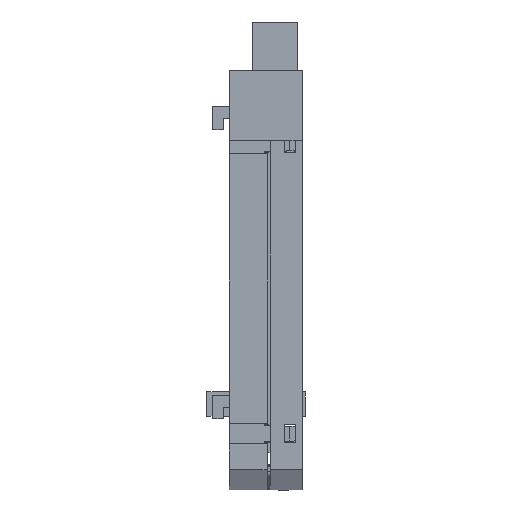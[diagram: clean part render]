
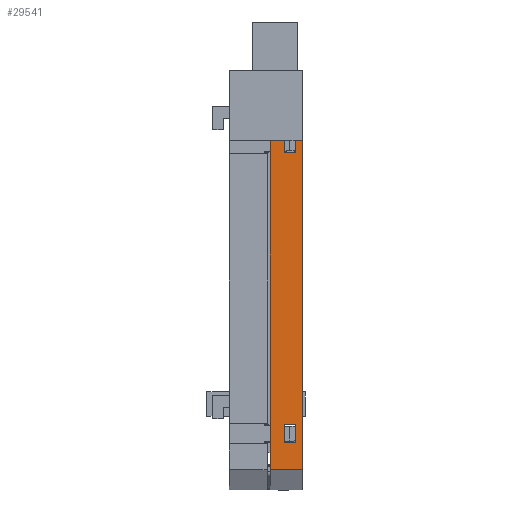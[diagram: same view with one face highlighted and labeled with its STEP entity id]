
A CAD part, front view. The second image highlights one B-rep face of the part: STEP entity #29541.
In plain terms, the highlighted planar face has unit normal (0, -1, 0).
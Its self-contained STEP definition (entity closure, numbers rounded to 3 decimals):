
#578 = EDGE_CURVE ( 'NONE', #30953, #20913, #30628, .T. ) ;
#805 = DIRECTION ( 'NONE',  ( 0., 0., 1. ) ) ;
#878 = ORIENTED_EDGE ( 'NONE', *, *, #22869, .T. ) ;
#997 = EDGE_CURVE ( 'NONE', #19001, #9235, #23706, .T. ) ;
#1550 = VERTEX_POINT ( 'NONE', #37493 ) ;
#1682 = CARTESIAN_POINT ( 'NONE',  ( 2.4, 0., -10.945 ) ) ;
#2820 = EDGE_CURVE ( 'NONE', #18022, #4559, #33786, .T. ) ;
#2954 = DIRECTION ( 'NONE',  ( 0., 0., -1. ) ) ;
#3087 = CARTESIAN_POINT ( 'NONE',  ( 0., 0., -65.25 ) ) ;
#3187 = CARTESIAN_POINT ( 'NONE',  ( 2.4, 0., -60.645 ) ) ;
#3425 = CARTESIAN_POINT ( 'NONE',  ( 2.4, 0., -60.645 ) ) ;
#3611 = DIRECTION ( 'NONE',  ( 0., 0., 1. ) ) ;
#4122 = FACE_BOUND ( 'NONE', #21312, .T. ) ;
#4152 = LINE ( 'NONE', #11160, #25774 ) ;
#4559 = VERTEX_POINT ( 'NONE', #17120 ) ;
#4831 = DIRECTION ( 'NONE',  ( -1., 0., 0. ) ) ;
#5074 = CARTESIAN_POINT ( 'NONE',  ( 5.5, 0., 0. ) ) ;
#5708 = CARTESIAN_POINT ( 'NONE',  ( 2.4, 0., -10.945 ) ) ;
#5855 = LINE ( 'NONE', #12832, #21508 ) ;
#6382 = LINE ( 'NONE', #14024, #22948 ) ;
#7833 = ORIENTED_EDGE ( 'NONE', *, *, #578, .F. ) ;
#8094 = AXIS2_PLACEMENT_3D ( 'NONE', #36084, #18408, #805 ) ;
#8108 = VECTOR ( 'NONE', #4831, 1000. ) ;
#8557 = VECTOR ( 'NONE', #31524, 1000. ) ;
#8659 = DIRECTION ( 'NONE',  ( 0., 0., 1. ) ) ;
#8926 = LINE ( 'NONE', #33074, #15831 ) ;
#9235 = VERTEX_POINT ( 'NONE', #32814 ) ;
#9621 = EDGE_CURVE ( 'NONE', #11173, #19001, #4152, .T. ) ;
#10289 = VECTOR ( 'NONE', #34561, 1000. ) ;
#10526 = ORIENTED_EDGE ( 'NONE', *, *, #9621, .T. ) ;
#10859 = CARTESIAN_POINT ( 'NONE',  ( 4.4, 0., -10.945 ) ) ;
#11160 = CARTESIAN_POINT ( 'NONE',  ( 2.4, 0., -57.545 ) ) ;
#11173 = VERTEX_POINT ( 'NONE', #18484 ) ;
#11356 = CARTESIAN_POINT ( 'NONE',  ( 5.5, 0., -65.25 ) ) ;
#11670 = CARTESIAN_POINT ( 'NONE',  ( 4.4, 0., -60.645 ) ) ;
#11745 = VECTOR ( 'NONE', #8659, 1000. ) ;
#12630 = CARTESIAN_POINT ( 'NONE',  ( 0., 0., 0. ) ) ;
#12672 = DIRECTION ( 'NONE',  ( -1., 0., 0. ) ) ;
#12832 = CARTESIAN_POINT ( 'NONE',  ( 2.4, 0., -7.845 ) ) ;
#14024 = CARTESIAN_POINT ( 'NONE',  ( 2.4, 0., -10.945 ) ) ;
#14122 = DIRECTION ( 'NONE',  ( 1., 0., 0. ) ) ;
#14889 = EDGE_CURVE ( 'NONE', #24997, #20390, #32039, .T. ) ;
#15149 = ORIENTED_EDGE ( 'NONE', *, *, #997, .T. ) ;
#15248 = EDGE_CURVE ( 'NONE', #35428, #1550, #36198, .T. ) ;
#15799 = DIRECTION ( 'NONE',  ( 1., 0., 0. ) ) ;
#15831 = VECTOR ( 'NONE', #3611, 1000. ) ;
#15883 = VECTOR ( 'NONE', #2954, 1000. ) ;
#17120 = CARTESIAN_POINT ( 'NONE',  ( 4.4, 0., -10.945 ) ) ;
#17472 = ORIENTED_EDGE ( 'NONE', *, *, #31771, .F. ) ;
#18022 = VERTEX_POINT ( 'NONE', #34598 ) ;
#18304 = EDGE_CURVE ( 'NONE', #9235, #28898, #19810, .T. ) ;
#18408 = DIRECTION ( 'NONE',  ( 0., 1., 0. ) ) ;
#18484 = CARTESIAN_POINT ( 'NONE',  ( 2.4, 0., -57.545 ) ) ;
#18789 = CARTESIAN_POINT ( 'NONE',  ( 4.4, 0., -57.545 ) ) ;
#19001 = VERTEX_POINT ( 'NONE', #18789 ) ;
#19146 = EDGE_CURVE ( 'NONE', #4559, #35428, #6382, .T. ) ;
#19776 = FACE_BOUND ( 'NONE', #25915, .T. ) ;
#19810 = LINE ( 'NONE', #3425, #27622 ) ;
#20390 = VERTEX_POINT ( 'NONE', #12630 ) ;
#20913 = VERTEX_POINT ( 'NONE', #3087 ) ;
#21043 = DIRECTION ( 'NONE',  ( -1., 0., 0. ) ) ;
#21312 = EDGE_LOOP ( 'NONE', ( #31601, #23349, #23385, #37666 ) ) ;
#21508 = VECTOR ( 'NONE', #15799, 1000. ) ;
#22679 = EDGE_LOOP ( 'NONE', ( #33590, #7833, #17472, #29906 ) ) ;
#22869 = EDGE_CURVE ( 'NONE', #28898, #11173, #8926, .T. ) ;
#22948 = VECTOR ( 'NONE', #31639, 1000. ) ;
#23349 = ORIENTED_EDGE ( 'NONE', *, *, #25207, .T. ) ;
#23385 = ORIENTED_EDGE ( 'NONE', *, *, #2820, .T. ) ;
#23706 = LINE ( 'NONE', #11670, #15883 ) ;
#23927 = VECTOR ( 'NONE', #31023, 1000. ) ;
#24997 = VERTEX_POINT ( 'NONE', #28567 ) ;
#25207 = EDGE_CURVE ( 'NONE', #1550, #18022, #5855, .T. ) ;
#25774 = VECTOR ( 'NONE', #14122, 1000. ) ;
#25915 = EDGE_LOOP ( 'NONE', ( #33550, #878, #10526, #15149 ) ) ;
#27590 = FACE_OUTER_BOUND ( 'NONE', #22679, .T. ) ;
#27622 = VECTOR ( 'NONE', #21043, 1000. ) ;
#28085 = CARTESIAN_POINT ( 'NONE',  ( 0., 0., 0. ) ) ;
#28132 = EDGE_CURVE ( 'NONE', #20390, #20913, #31711, .T. ) ;
#28360 = CARTESIAN_POINT ( 'NONE',  ( 5.5, 0., -65.25 ) ) ;
#28567 = CARTESIAN_POINT ( 'NONE',  ( 5.5, 0., 0. ) ) ;
#28898 = VERTEX_POINT ( 'NONE', #3187 ) ;
#29541 = ADVANCED_FACE ( 'NONE', ( #4122, #19776, #27590 ), #30121, .F. ) ;
#29906 = ORIENTED_EDGE ( 'NONE', *, *, #14889, .T. ) ;
#30121 = PLANE ( 'NONE',  #8094 ) ;
#30290 = CARTESIAN_POINT ( 'NONE',  ( 5.5, 0., 0. ) ) ;
#30628 = LINE ( 'NONE', #28360, #8108 ) ;
#30953 = VERTEX_POINT ( 'NONE', #11356 ) ;
#31023 = DIRECTION ( 'NONE',  ( 0., 0., -1. ) ) ;
#31524 = DIRECTION ( 'NONE',  ( 0., 0., -1. ) ) ;
#31601 = ORIENTED_EDGE ( 'NONE', *, *, #15248, .T. ) ;
#31639 = DIRECTION ( 'NONE',  ( -1., 0., 0. ) ) ;
#31711 = LINE ( 'NONE', #28085, #23927 ) ;
#31771 = EDGE_CURVE ( 'NONE', #24997, #30953, #31998, .T. ) ;
#31998 = LINE ( 'NONE', #5074, #8557 ) ;
#32039 = LINE ( 'NONE', #30290, #38032 ) ;
#32814 = CARTESIAN_POINT ( 'NONE',  ( 4.4, 0., -60.645 ) ) ;
#33074 = CARTESIAN_POINT ( 'NONE',  ( 2.4, 0., -60.645 ) ) ;
#33550 = ORIENTED_EDGE ( 'NONE', *, *, #18304, .T. ) ;
#33590 = ORIENTED_EDGE ( 'NONE', *, *, #28132, .T. ) ;
#33786 = LINE ( 'NONE', #10859, #10289 ) ;
#34561 = DIRECTION ( 'NONE',  ( 0., 0., -1. ) ) ;
#34598 = CARTESIAN_POINT ( 'NONE',  ( 4.4, 0., -7.845 ) ) ;
#35428 = VERTEX_POINT ( 'NONE', #1682 ) ;
#36084 = CARTESIAN_POINT ( 'NONE',  ( 5.5, 0., 0. ) ) ;
#36198 = LINE ( 'NONE', #5708, #11745 ) ;
#37493 = CARTESIAN_POINT ( 'NONE',  ( 2.4, 0., -7.845 ) ) ;
#37666 = ORIENTED_EDGE ( 'NONE', *, *, #19146, .T. ) ;
#38032 = VECTOR ( 'NONE', #12672, 1000. ) ;
